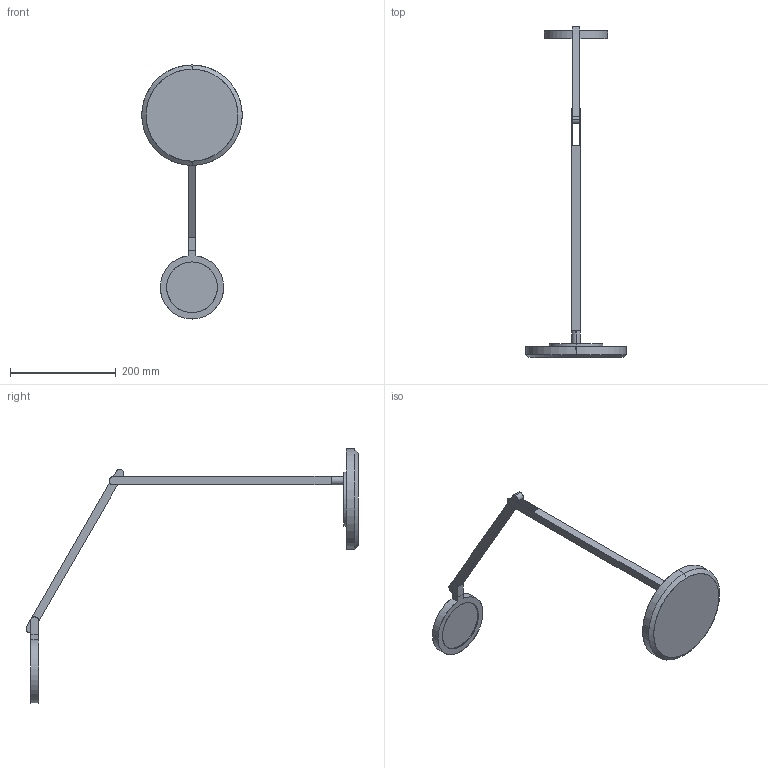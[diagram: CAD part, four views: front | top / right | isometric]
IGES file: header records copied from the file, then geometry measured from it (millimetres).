
Start section: SolidWorks IGES file using analytic representation for surfaces
Global section: file name: C:\Users\danielet\Desktop\3D CARLOS\LUXA-S8203-3D\LUXA-S8203-3D.IGS; native system: SolidWorks 2018; preprocessor: SolidWorks 2018; author: danielet; date: 220128.115053; units: millimetre
Bounding box: 190 x 628.33 x 480.75 mm (x, y, z)
Surface area: 148301.5 mm2 (no closed solid volume)
Topology: 0 solids, 0 shells, 57 faces, 1086 edges, 1086 vertices
Faces by surface type: bspline 37, revolution 20
